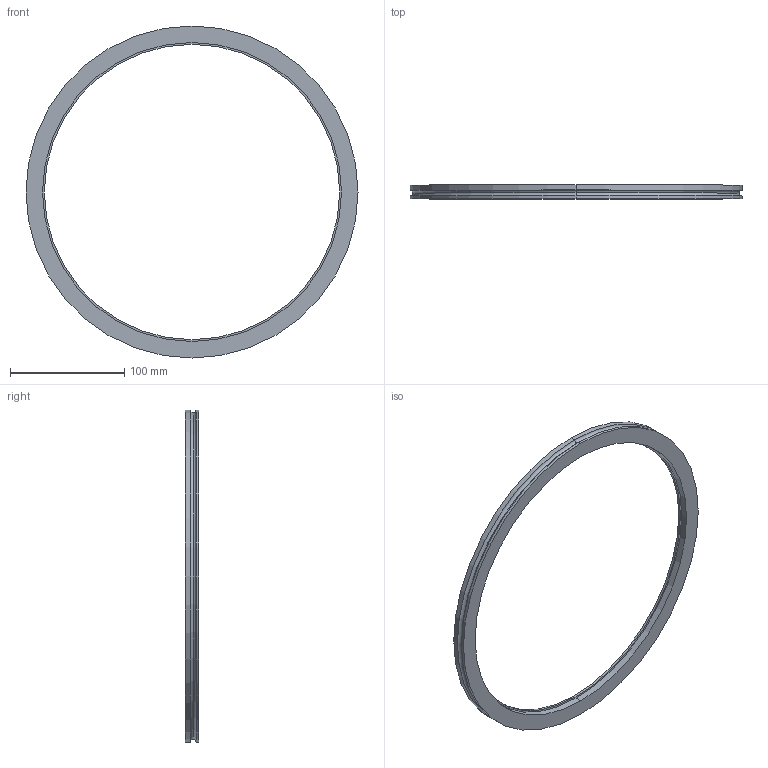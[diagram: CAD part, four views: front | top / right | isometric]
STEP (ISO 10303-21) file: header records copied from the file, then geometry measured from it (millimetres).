
FILE_DESCRIPTION (( 'STEP AP214' ), '1' );
FILE_NAME ('W4KL250.STEP', '2019-03-28T07:59:10', ( '' ), ( '' ), 'SwSTEP 2.0', 'SolidWorks 2018', '' );
FILE_SCHEMA (( 'AUTOMOTIVE_DESIGN' ));
Length unit declared in the file: millimetre
Products named in the file (1): W4KL250
Bounding box: 290 x 12 x 290 mm (x, y, z)
Volume: 111513.8 mm3; surface area: 51061.1 mm2
Topology: 1 solids, 1 shells, 21 faces, 42 edges, 26 vertices
Faces by surface type: cylinder 12, plane 5, torus 4
Entity records: 596 total; most frequent: DIRECTION 116, CARTESIAN_POINT 90, ORIENTED_EDGE 84, AXIS2_PLACEMENT_3D 52, EDGE_CURVE 42, CIRCLE 30, EDGE_LOOP 26, VERTEX_POINT 26
